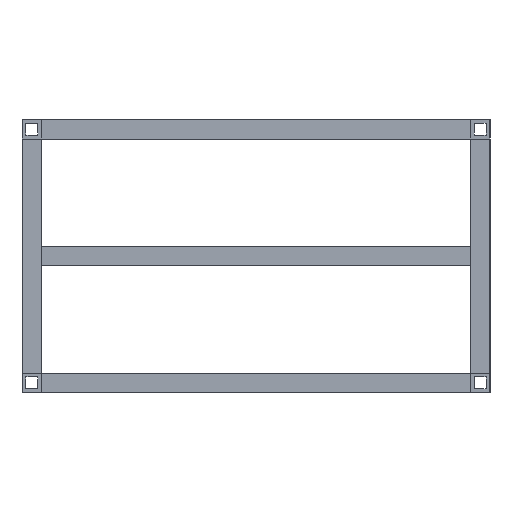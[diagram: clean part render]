
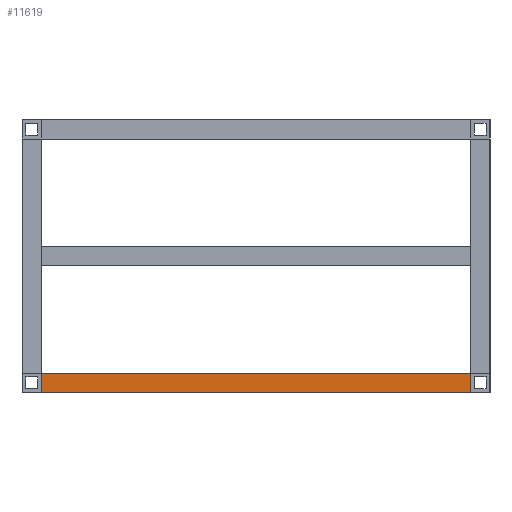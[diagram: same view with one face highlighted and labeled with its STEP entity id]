
A CAD part, left-side view. The second image highlights one B-rep face of the part: STEP entity #11619.
In plain terms, the highlighted planar face has unit normal (-1, 0, 0).
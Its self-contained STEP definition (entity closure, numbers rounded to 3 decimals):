
#11189=AXIS2_PLACEMENT_3D('Plane Axis2P3D',#11186,#11187,#11188) ;
#11186=CARTESIAN_POINT('Axis2P3D Location',(0.,10.,-75.)) ;
#11499=CARTESIAN_POINT('Line Origine',(0.,10.,-135.)) ;
#11503=CARTESIAN_POINT('Vertex',(0.,10.,-130.)) ;
#11505=CARTESIAN_POINT('Vertex',(0.,10.,-140.)) ;
#11594=CARTESIAN_POINT('Line Origine',(0.,120.,-140.)) ;
#11598=CARTESIAN_POINT('Vertex',(0.,230.,-140.)) ;
#11601=CARTESIAN_POINT('Line Origine',(0.,120.,-130.)) ;
#11605=CARTESIAN_POINT('Vertex',(0.,230.,-130.)) ;
#11608=CARTESIAN_POINT('Line Origine',(0.,230.,-135.)) ;
#11187=DIRECTION('Axis2P3D Direction',(-1.,0.,0.)) ;
#11188=DIRECTION('Axis2P3D XDirection',(0.,0.,1.)) ;
#11500=DIRECTION('Vector Direction',(0.,0.,-1.)) ;
#11595=DIRECTION('Vector Direction',(0.,1.,0.)) ;
#11602=DIRECTION('Vector Direction',(0.,1.,0.)) ;
#11609=DIRECTION('Vector Direction',(0.,0.,1.)) ;
#11501=VECTOR('Line Direction',#11500,1.) ;
#11596=VECTOR('Line Direction',#11595,1.) ;
#11603=VECTOR('Line Direction',#11602,1.) ;
#11610=VECTOR('Line Direction',#11609,1.) ;
#11614=ORIENTED_EDGE('',*,*,#11600,.F.) ;
#11615=ORIENTED_EDGE('',*,*,#11507,.F.) ;
#11616=ORIENTED_EDGE('',*,*,#11607,.T.) ;
#11617=ORIENTED_EDGE('',*,*,#11612,.F.) ;
#11619=ADVANCED_FACE('\X2\51E04F554F53\X0\.3',(#11618),#11190,.T.) ;
#11507=EDGE_CURVE('',#11504,#11506,#11502,.T.) ;
#11600=EDGE_CURVE('',#11506,#11599,#11597,.T.) ;
#11607=EDGE_CURVE('',#11504,#11606,#11604,.T.) ;
#11612=EDGE_CURVE('',#11599,#11606,#11611,.T.) ;
#11613=EDGE_LOOP('',(#11614,#11615,#11616,#11617)) ;
#11618=FACE_OUTER_BOUND('',#11613,.T.) ;
#11502=LINE('Line',#11499,#11501) ;
#11597=LINE('Line',#11594,#11596) ;
#11604=LINE('Line',#11601,#11603) ;
#11611=LINE('Line',#11608,#11610) ;
#11190=PLANE('',#11189) ;
#11504=VERTEX_POINT('',#11503) ;
#11506=VERTEX_POINT('',#11505) ;
#11599=VERTEX_POINT('',#11598) ;
#11606=VERTEX_POINT('',#11605) ;
